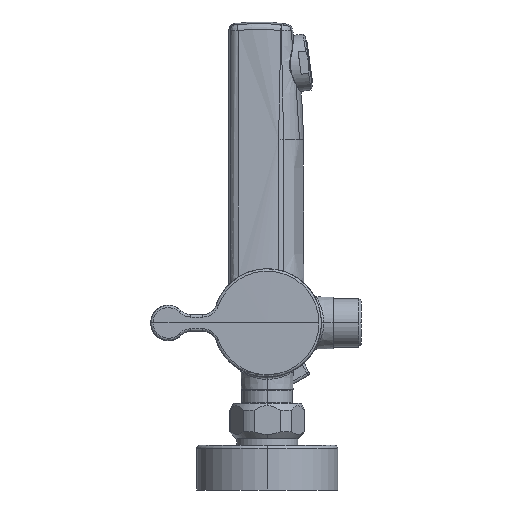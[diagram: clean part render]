
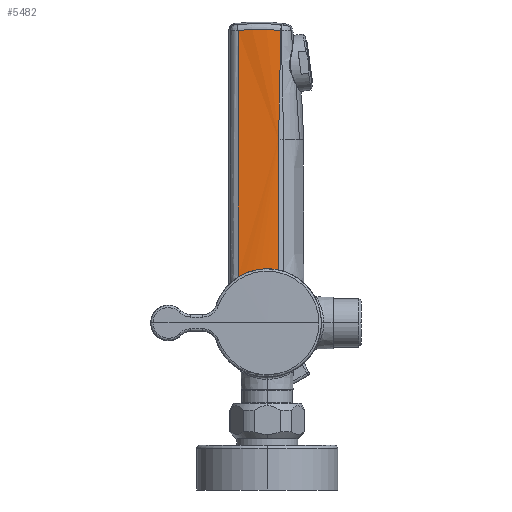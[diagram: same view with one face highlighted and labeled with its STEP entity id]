
A CAD part, left-side view. The second image highlights one B-rep face of the part: STEP entity #5482.
In plain terms, the highlighted conical face has half-angle 0.2 degrees and reference radius 59.28 mm.
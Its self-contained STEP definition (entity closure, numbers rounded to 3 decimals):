
#58=CARTESIAN_POINT('',(-15.536,12.355,19.4));
#59=CARTESIAN_POINT('',(-15.599,11.937,19.666));
#60=CARTESIAN_POINT('',(-15.717,11.086,20.17));
#61=CARTESIAN_POINT('',(-15.87,9.773,20.838));
#62=CARTESIAN_POINT('',(-15.996,8.431,21.416));
#63=CARTESIAN_POINT('',(-16.094,7.061,21.905));
#64=CARTESIAN_POINT('',(-16.16,5.674,22.305));
#65=CARTESIAN_POINT('',(-16.195,4.268,22.616));
#66=CARTESIAN_POINT('',(-16.197,2.855,22.837));
#67=CARTESIAN_POINT('',(-16.165,1.429,22.97));
#68=CARTESIAN_POINT('',(-16.121,0.476,23.));
#69=CARTESIAN_POINT('',(-16.093,0.,23.));
#282=CARTESIAN_POINT('',(-16.093,0.,23.));
#283=CARTESIAN_POINT('',(-16.075,-0.325,23.));
#284=CARTESIAN_POINT('',(-16.031,-0.976,
22.986));
#285=CARTESIAN_POINT('',(-15.95,-1.953,22.924));
#286=CARTESIAN_POINT('',(-15.854,-2.928,22.82));
#287=CARTESIAN_POINT('',(-15.741,-3.901,22.674));
#288=CARTESIAN_POINT('',(-15.655,-4.548,22.548));
#289=CARTESIAN_POINT('',(-15.61,-4.87,22.478));
#541=CARTESIAN_POINT('',(-15.16,12.393,124.272));
#542=CARTESIAN_POINT('',(-15.202,12.388,112.622));
#543=CARTESIAN_POINT('',(-15.286,12.38,89.32));
#544=CARTESIAN_POINT('',(-15.411,12.367,54.362));
#545=CARTESIAN_POINT('',(-15.495,12.359,31.055));
#546=CARTESIAN_POINT('',(-15.536,12.355,19.4));
#548=CARTESIAN_POINT('',(-15.16,12.393,124.272));
#549=CARTESIAN_POINT('',(-15.292,11.531,124.365));
#550=CARTESIAN_POINT('',(-15.517,9.802,124.523));
#551=CARTESIAN_POINT('',(-15.739,7.203,124.679));
#552=CARTESIAN_POINT('',(-15.847,4.599,124.755));
#553=CARTESIAN_POINT('',(-15.84,1.993,124.75));
#554=CARTESIAN_POINT('',(-15.718,-0.61,
124.665));
#555=CARTESIAN_POINT('',(-15.482,-3.209,124.5));
#556=CARTESIAN_POINT('',(-15.248,-4.936,124.336));
#557=CARTESIAN_POINT('',(-15.112,-5.798,124.24));
#559=CARTESIAN_POINT('',(-15.417,-4.851,78.03));
#560=CARTESIAN_POINT('',(-15.385,-4.954,82.88));
#561=CARTESIAN_POINT('',(-15.318,-5.18,92.771));
#562=CARTESIAN_POINT('',(-15.212,-5.515,108.415));
#563=CARTESIAN_POINT('',(-15.145,-5.706,118.926));
#564=CARTESIAN_POINT('',(-15.112,-5.798,124.24));
#566=CARTESIAN_POINT('',(-15.61,-4.87,22.478));
#567=CARTESIAN_POINT('',(-15.587,-4.862,29.211));
#568=CARTESIAN_POINT('',(-15.543,-4.851,42.304));
#569=CARTESIAN_POINT('',(-15.482,-4.818,60.859));
#570=CARTESIAN_POINT('',(-15.439,-4.833,72.435));
#571=CARTESIAN_POINT('',(-15.417,-4.851,78.03));
#588=CARTESIAN_POINT('',(-15.16,12.393,124.272));
#888=CARTESIAN_POINT('',(-15.417,-4.851,78.03));
#5147=VERTEX_POINT('',#888);
#5167=VERTEX_POINT('',#588);
#5168=VERTEX_POINT('',#557);
#5196=VERTEX_POINT('',#58);
#5197=VERTEX_POINT('',#69);
#5200=VERTEX_POINT('',#289);
#5465=CARTESIAN_POINT('',(43.257,3.454,72.076));
#5466=DIRECTION('',(0.,0.,-1.));
#5467=DIRECTION('',(-1.,0.,0.));
#5468=AXIS2_PLACEMENT_3D('',#5465,#5466,#5467);
#5469=CONICAL_SURFACE('',#5468,59.28,0.2);
#5470=ORIENTED_EDGE('',*,*,#5341,.F.);
#5472=ORIENTED_EDGE('',*,*,#5471,.F.);
#5474=ORIENTED_EDGE('',*,*,#5473,.T.);
#5476=ORIENTED_EDGE('',*,*,#5475,.F.);
#5478=ORIENTED_EDGE('',*,*,#5477,.F.);
#5479=ORIENTED_EDGE('',*,*,#5435,.F.);
#5480=EDGE_LOOP('',(#5470,#5472,#5474,#5476,#5478,#5479));
#5481=FACE_OUTER_BOUND('',#5480,.F.);
#5482=ADVANCED_FACE('',(#5481),#5469,.T.);
#70=B_SPLINE_CURVE_WITH_KNOTS('',3,(#58,#59,#60,#61,#62,#63,#64,#65,#66,#67,#68,
#69),.UNSPECIFIED.,.F.,.F.,(4,1,1,1,1,1,1,1,1,4),(0.,0.111,
0.222,0.333,0.444,0.556,
0.667,0.778,0.889,1.),.UNSPECIFIED.);
#290=B_SPLINE_CURVE_WITH_KNOTS('',3,(#282,#283,#284,#285,#286,#287,#288,#289),
.UNSPECIFIED.,.F.,.F.,(4,1,1,1,1,4),(0.,0.2,0.4,0.6,0.8,1.),
.UNSPECIFIED.);
#547=B_SPLINE_CURVE_WITH_KNOTS('',3,(#541,#542,#543,#544,#545,#546),
.UNSPECIFIED.,.F.,.F.,(4,1,1,4),(0.,0.333,0.667,1.),
.UNSPECIFIED.);
#558=B_SPLINE_CURVE_WITH_KNOTS('',3,(#548,#549,#550,#551,#552,#553,#554,#555,
#556,#557),.UNSPECIFIED.,.F.,.F.,(4,1,1,1,1,1,1,4),(0.,0.143,
0.286,0.429,0.571,0.714,
0.857,1.),.UNSPECIFIED.);
#565=B_SPLINE_CURVE_WITH_KNOTS('',3,(#559,#560,#561,#562,#563,#564),
.UNSPECIFIED.,.F.,.F.,(4,1,1,4),(0.,0.333,0.667,1.),
.UNSPECIFIED.);
#572=B_SPLINE_CURVE_WITH_KNOTS('',3,(#566,#567,#568,#569,#570,#571),
.UNSPECIFIED.,.F.,.F.,(4,1,1,4),(0.,0.333,0.667,1.),
.UNSPECIFIED.);
#5341=EDGE_CURVE('',#5196,#5197,#70,.T.);
#5435=EDGE_CURVE('',#5197,#5200,#290,.T.);
#5471=EDGE_CURVE('',#5167,#5196,#547,.T.);
#5473=EDGE_CURVE('',#5167,#5168,#558,.T.);
#5475=EDGE_CURVE('',#5147,#5168,#565,.T.);
#5477=EDGE_CURVE('',#5200,#5147,#572,.T.);
